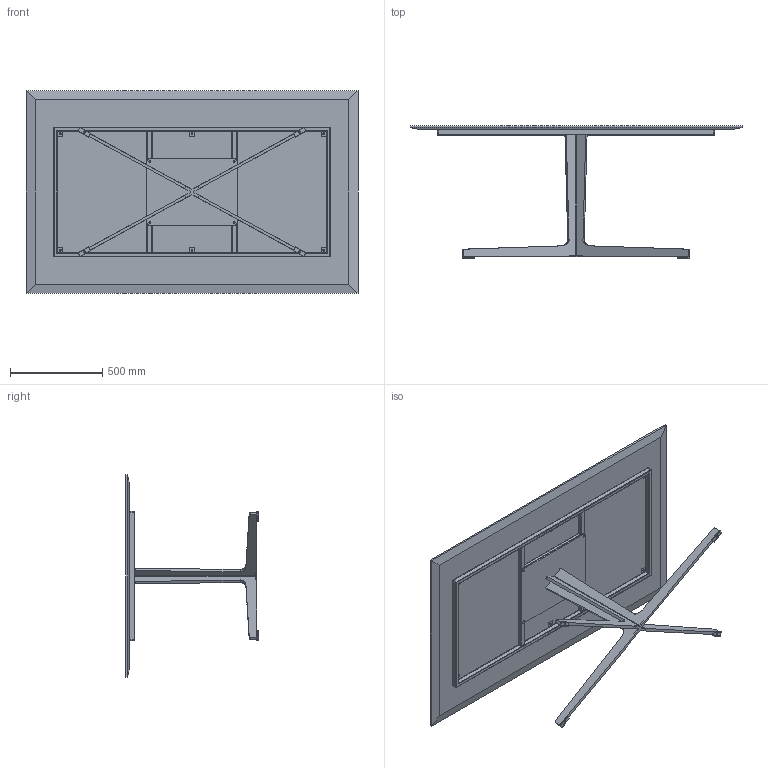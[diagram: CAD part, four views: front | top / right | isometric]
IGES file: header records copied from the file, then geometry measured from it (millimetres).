
Start section: SolidWorks IGES file using analytic representation for surfaces
Global section: file name: W:\design\CKR\spilt\IGS\180x110.IGS; native system: SolidWorks 2010; preprocessor: SolidWorks 2010; author: PC20; date: 150212.185907; units: millimetre
Bounding box: 1800 x 717 x 1100 mm (x, y, z)
Surface area: 6277239.7 mm2 (no closed solid volume)
Topology: 0 solids, 0 shells, 452 faces, 9332 edges, 11680 vertices
Faces by surface type: bspline 280, revolution 172
